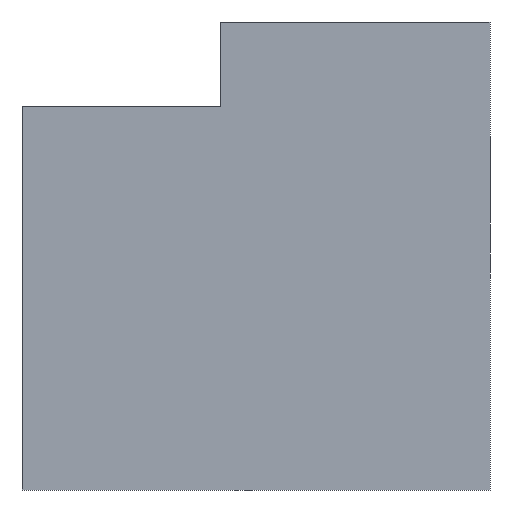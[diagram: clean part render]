
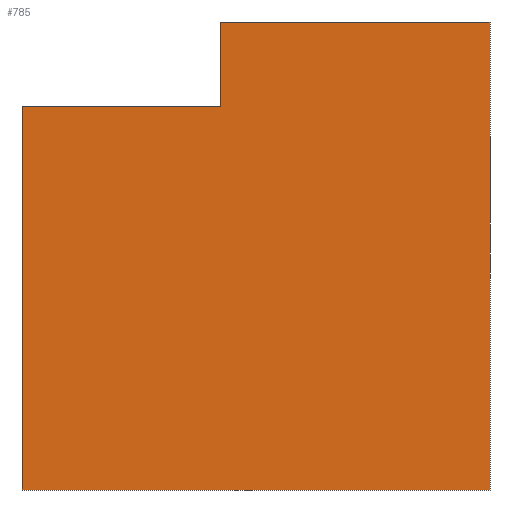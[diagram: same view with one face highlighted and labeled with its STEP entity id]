
A CAD part, front view. The second image highlights one B-rep face of the part: STEP entity #785.
In plain terms, the highlighted planar face has unit normal (0, -1, 0).
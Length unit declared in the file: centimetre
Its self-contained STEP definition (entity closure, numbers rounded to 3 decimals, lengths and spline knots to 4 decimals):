
#1 = CARTESIAN_POINT ( 'NONE',  ( 0., 0., 1000. ) ) ;
#26 = LINE ( 'NONE', #920, #510 ) ;
#27 = VERTEX_POINT ( 'NONE', #579 ) ;
#64 = DIRECTION ( 'NONE',  ( 0., 1., 0. ) ) ;
#85 = LINE ( 'NONE', #372, #466 ) ;
#102 = LINE ( 'NONE', #632, #378 ) ;
#104 = EDGE_CURVE ( 'NONE', #456, #629, #26, .T. ) ;
#119 = CARTESIAN_POINT ( 'NONE',  ( 0., 0., 0. ) ) ;
#135 = ORIENTED_EDGE ( 'NONE', *, *, #268, .T. ) ;
#154 = AXIS2_PLACEMENT_3D ( 'NONE', #1, #64, #743 ) ;
#178 = VERTEX_POINT ( 'NONE', #273 ) ;
#191 = VERTEX_POINT ( 'NONE', #818 ) ;
#225 = DIRECTION ( 'NONE',  ( 0., 0., -1. ) ) ;
#227 = LINE ( 'NONE', #765, #776 ) ;
#268 = EDGE_CURVE ( 'NONE', #191, #27, #102, .T. ) ;
#273 = CARTESIAN_POINT ( 'NONE',  ( 1000., 0., 0. ) ) ;
#299 = CARTESIAN_POINT ( 'NONE',  ( 424.2462, 0., 1000. ) ) ;
#322 = EDGE_CURVE ( 'NONE', #629, #178, #85, .T. ) ;
#331 = CARTESIAN_POINT ( 'NONE',  ( 0., 0., 819.4906 ) ) ;
#335 = CARTESIAN_POINT ( 'NONE',  ( 1000., 0., 1000. ) ) ;
#338 = DIRECTION ( 'NONE',  ( -1., 0., 0. ) ) ;
#339 = EDGE_LOOP ( 'NONE', ( #833, #953, #135, #816, #832, #943 ) ) ;
#372 = CARTESIAN_POINT ( 'NONE',  ( 1000., 0., 1000. ) ) ;
#378 = VECTOR ( 'NONE', #864, 100. ) ;
#408 = EDGE_CURVE ( 'NONE', #456, #487, #227, .T. ) ;
#432 = VECTOR ( 'NONE', #647, 100. ) ;
#456 = VERTEX_POINT ( 'NONE', #299 ) ;
#466 = VECTOR ( 'NONE', #225, 100. ) ;
#487 = VERTEX_POINT ( 'NONE', #769 ) ;
#491 = FACE_OUTER_BOUND ( 'NONE', #339, .T. ) ;
#494 = VECTOR ( 'NONE', #338, 100. ) ;
#510 = VECTOR ( 'NONE', #781, 100. ) ;
#579 = CARTESIAN_POINT ( 'NONE',  ( 0., 0., 0. ) ) ;
#584 = EDGE_CURVE ( 'NONE', #487, #191, #711, .T. ) ;
#629 = VERTEX_POINT ( 'NONE', #335 ) ;
#632 = CARTESIAN_POINT ( 'NONE',  ( 0., 0., 1000. ) ) ;
#647 = DIRECTION ( 'NONE',  ( 1., 0., 0. ) ) ;
#660 = PLANE ( 'NONE',  #154 ) ;
#696 = EDGE_CURVE ( 'NONE', #27, #178, #778, .T. ) ;
#711 = LINE ( 'NONE', #331, #494 ) ;
#743 = DIRECTION ( 'NONE',  ( 0., 0., 1. ) ) ;
#765 = CARTESIAN_POINT ( 'NONE',  ( 424.2462, 0., 819.4906 ) ) ;
#769 = CARTESIAN_POINT ( 'NONE',  ( 424.2462, 0., 819.4906 ) ) ;
#776 = VECTOR ( 'NONE', #961, 100. ) ;
#778 = LINE ( 'NONE', #119, #432 ) ;
#781 = DIRECTION ( 'NONE',  ( 1., 0., 0. ) ) ;
#785 = ADVANCED_FACE ( 'NONE', ( #491 ), #660, .F. ) ;
#816 = ORIENTED_EDGE ( 'NONE', *, *, #696, .T. ) ;
#818 = CARTESIAN_POINT ( 'NONE',  ( 0., 0., 819.4906 ) ) ;
#832 = ORIENTED_EDGE ( 'NONE', *, *, #322, .F. ) ;
#833 = ORIENTED_EDGE ( 'NONE', *, *, #408, .T. ) ;
#864 = DIRECTION ( 'NONE',  ( 0., 0., -1. ) ) ;
#920 = CARTESIAN_POINT ( 'NONE',  ( 0., 0., 1000. ) ) ;
#943 = ORIENTED_EDGE ( 'NONE', *, *, #104, .F. ) ;
#953 = ORIENTED_EDGE ( 'NONE', *, *, #584, .T. ) ;
#961 = DIRECTION ( 'NONE',  ( 0., 0., -1. ) ) ;
